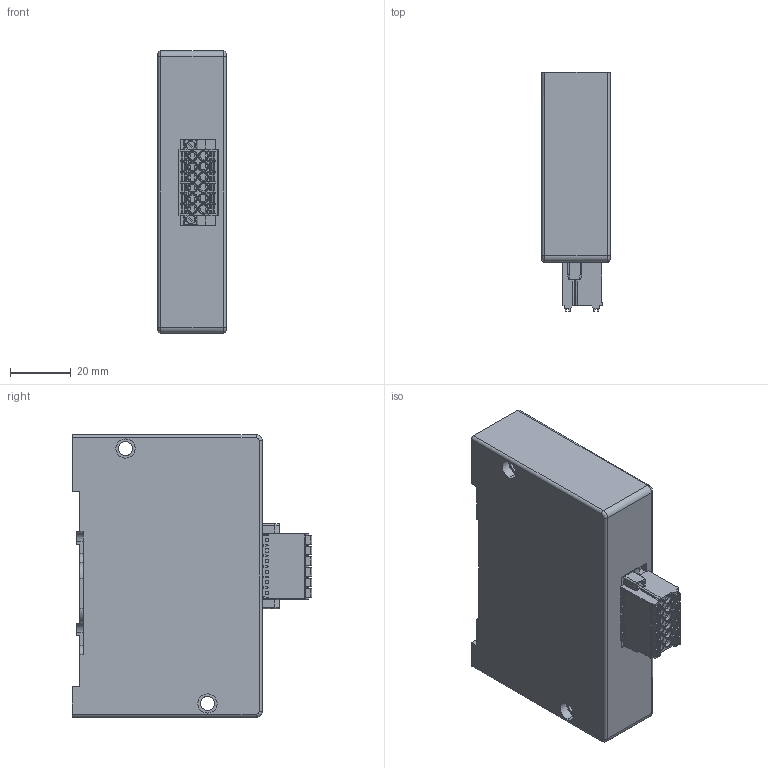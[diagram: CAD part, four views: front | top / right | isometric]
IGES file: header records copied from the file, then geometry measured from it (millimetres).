
Start section: ------------------------------------------------------------------------
Bounding box: 22.5 x 78.8 x 93 mm (x, y, z)
Volume: 128062.7 mm3; surface area: 22777.8 mm2
Topology: 1 solids, 1 shells, 851 faces, 2223 edges, 1432 vertices
Faces by surface type: bspline 851
